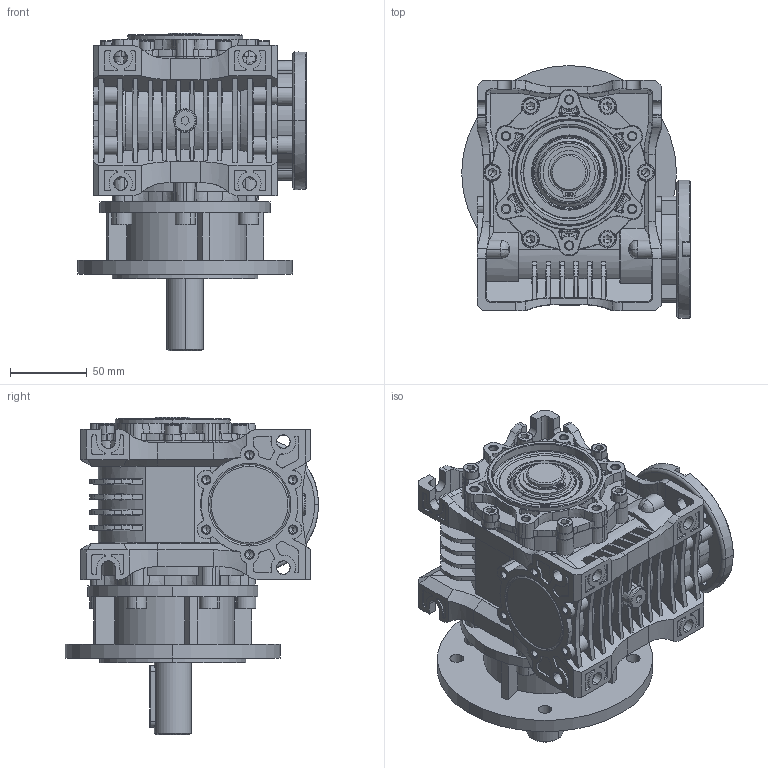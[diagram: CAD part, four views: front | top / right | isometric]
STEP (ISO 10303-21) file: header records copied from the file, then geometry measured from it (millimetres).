
FILE_DESCRIPTION (( 'STEP AP203' ), '1' );
FILE_NAME ('MR-50_90-11-K140_1-WJ_1-3D.STEP', '2024-02-08T10:54:39', ( '' ), ( '' ), 'SwSTEP 2.0', 'SolidWorks 2022', '' );
FILE_SCHEMA (( 'CONFIG_CONTROL_DESIGN' ));
Products named in the file (1): MR-50_90-11-K140_1-WJ_1-3D
Bounding box: 149 x 165 x 207 mm (x, y, z)
Volume: 1460168.1 mm3; surface area: 278067.7 mm2
Topology: 1 solids, 41 shells, 3065 faces, 8066 edges, 5112 vertices
Faces by surface type: plane 1165, cone 921, cylinder 726, torus 156, bspline 97
Entity records: 113405 total; most frequent: CARTESIAN_POINT 38389, ORIENTED_EDGE 15908, DIRECTION 15895, EDGE_CURVE 7954, AXIS2_PLACEMENT_3D 6040, VERTEX_POINT 5112, LINE 3815, VECTOR 3815
